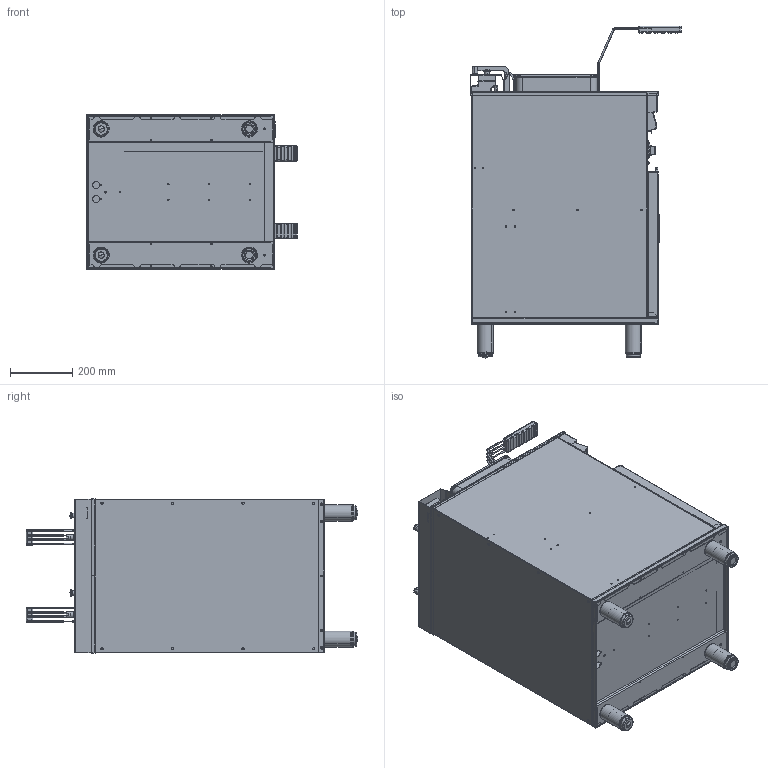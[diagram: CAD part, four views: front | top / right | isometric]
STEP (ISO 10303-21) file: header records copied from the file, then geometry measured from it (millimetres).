
FILE_DESCRIPTION (( 'STEP AP214' ), '1' );
FILE_NAME ('EVO-2525.STEP', '2014-10-07T12:39:17', ( '' ), ( '' ), 'SwSTEP 2.0', 'SolidWorks 2013', '' );
FILE_SCHEMA (( 'AUTOMOTIVE_DESIGN' ));
Length unit declared in the file: millimetre
Products named in the file (1): EVO-2525
Bounding box: 675.51 x 1063.1 x 496 mm (x, y, z)
Surface area: 5499740.6 mm2 (no closed solid volume)
Topology: 0 solids, 127 shells, 1290 faces, 5173 edges, 3800 vertices
Faces by surface type: cylinder 605, plane 299, torus 199, bspline 102, cone 64, sphere 21
Entity records: 76449 total; most frequent: CARTESIAN_POINT 19471, DIRECTION 9432, ORIENTED_EDGE 7655, EDGE_CURVE 5161, VERTEX_POINT 3800, AXIS2_PLACEMENT_3D 3632, CIRCLE 2443, LINE 2168
